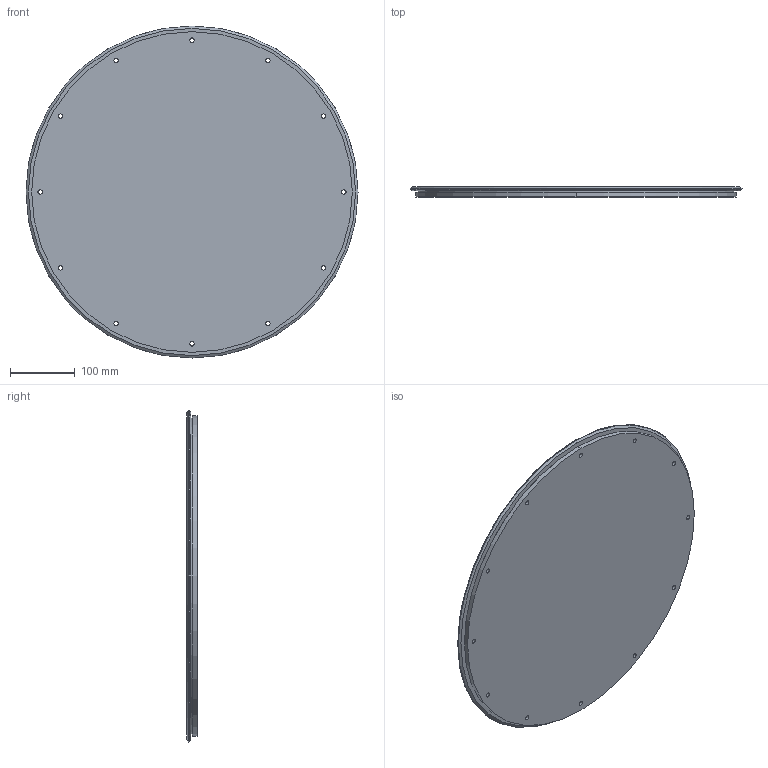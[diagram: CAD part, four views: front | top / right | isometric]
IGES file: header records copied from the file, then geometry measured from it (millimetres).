
Start section: 3D InterOp IGES (v. 2020 1.0.1), Spatial Corp. Copyright (c) 1999-2017.
Global section: file name: rd44_468_l.igs; native system: Spatial Corp.; preprocessor: 3D InterOp ACIS/IGES; author: TraceParts; organization: TraceParts S.A.; date: 20220624.041935; units: millimetre
Bounding box: 511.61 x 15.5 x 511.61 mm (x, y, z)
Surface area: 455408.1 mm2 (no closed solid volume)
Topology: 0 solids, 0 shells, 83 faces, 376 edges, 376 vertices
Faces by surface type: revolution 66, extrusion 17
